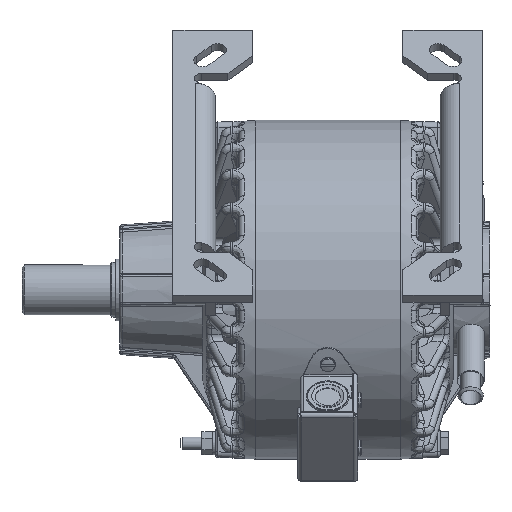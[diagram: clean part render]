
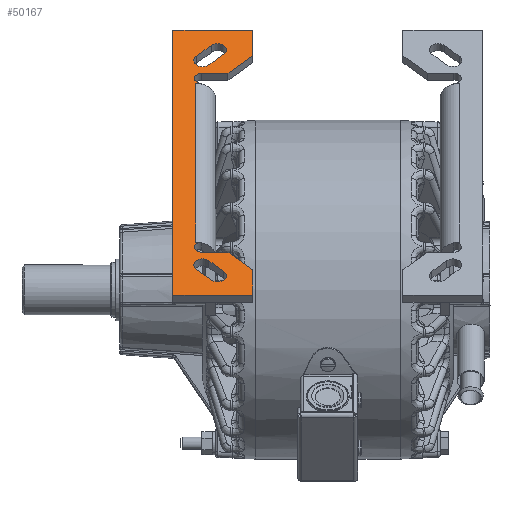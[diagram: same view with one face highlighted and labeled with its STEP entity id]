
A CAD part, left-side view. The second image highlights one B-rep face of the part: STEP entity #50167.
In plain terms, the highlighted planar face has unit normal (-0.707, 0, 0.707).
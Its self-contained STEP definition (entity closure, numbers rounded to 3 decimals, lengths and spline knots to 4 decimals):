
#1773=FACE_BOUND('',#6986,.T.);
#1774=FACE_BOUND('',#6987,.T.);
#2080=PLANE('',#53976);
#3721=FACE_OUTER_BOUND('',#6985,.T.);
#6985=EDGE_LOOP('',(#36958,#36959,#36960,#36961,#36962,#36963,#36964,#36965,
#36966,#36967,#36968,#36969,#36970,#36971));
#6986=EDGE_LOOP('',(#36972,#36973,#36974,#36975));
#6987=EDGE_LOOP('',(#36976,#36977,#36978,#36979));
#12702=CIRCLE('',#53932,0.219);
#12704=CIRCLE('',#53937,0.219);
#12711=CIRCLE('',#53960,0.18);
#12713=CIRCLE('',#53972,0.18);
#12715=CIRCLE('',#53977,0.219);
#12716=CIRCLE('',#53978,0.219);
#15661=LINE('',#102905,#17794);
#15666=LINE('',#102918,#17799);
#15669=LINE('',#102926,#17802);
#15674=LINE('',#102939,#17807);
#15711=LINE('',#103018,#17844);
#15719=LINE('',#103044,#17852);
#15722=LINE('',#103050,#17855);
#15725=LINE('',#103056,#17858);
#15728=LINE('',#103062,#17861);
#15731=LINE('',#103068,#17864);
#15734=LINE('',#103074,#17867);
#15737=LINE('',#103080,#17870);
#15740=LINE('',#103086,#17873);
#15743=LINE('',#103092,#17876);
#15747=LINE('',#103102,#17880);
#15748=LINE('',#103104,#17881);
#17794=VECTOR('',#61537,39.3701);
#17799=VECTOR('',#61550,39.3701);
#17802=VECTOR('',#61555,39.3701);
#17807=VECTOR('',#61568,39.3701);
#17844=VECTOR('',#61633,39.3701);
#17852=VECTOR('',#61661,39.3701);
#17855=VECTOR('',#61666,39.3701);
#17858=VECTOR('',#61671,39.3701);
#17861=VECTOR('',#61676,39.3701);
#17864=VECTOR('',#61681,39.3701);
#17867=VECTOR('',#61686,39.3701);
#17870=VECTOR('',#61691,39.3701);
#17873=VECTOR('',#61696,39.3701);
#17876=VECTOR('',#61701,39.3701);
#17880=VECTOR('',#61713,39.3701);
#17881=VECTOR('',#61716,39.3701);
#20806=VERTEX_POINT('',#102902);
#20807=VERTEX_POINT('',#102904);
#20809=VERTEX_POINT('',#102910);
#20811=VERTEX_POINT('',#102916);
#20814=VERTEX_POINT('',#102923);
#20815=VERTEX_POINT('',#102925);
#20817=VERTEX_POINT('',#102931);
#20819=VERTEX_POINT('',#102937);
#20846=VERTEX_POINT('',#103016);
#20847=VERTEX_POINT('',#103017);
#20852=VERTEX_POINT('',#103035);
#20853=VERTEX_POINT('',#103036);
#20855=VERTEX_POINT('',#103043);
#20857=VERTEX_POINT('',#103049);
#20859=VERTEX_POINT('',#103055);
#20861=VERTEX_POINT('',#103061);
#20863=VERTEX_POINT('',#103067);
#20865=VERTEX_POINT('',#103073);
#20867=VERTEX_POINT('',#103079);
#20869=VERTEX_POINT('',#103085);
#20871=VERTEX_POINT('',#103091);
#20873=VERTEX_POINT('',#103097);
#26587=EDGE_CURVE('',#20806,#20807,#15661,.T.);
#26591=EDGE_CURVE('',#20809,#20806,#12702,.T.);
#26594=EDGE_CURVE('',#20811,#20809,#15666,.T.);
#26597=EDGE_CURVE('',#20815,#20814,#15669,.T.);
#26601=EDGE_CURVE('',#20814,#20817,#12704,.T.);
#26604=EDGE_CURVE('',#20817,#20819,#15674,.T.);
#26643=EDGE_CURVE('',#20846,#20847,#15711,.T.);
#26653=EDGE_CURVE('',#20852,#20853,#12711,.T.);
#26657=EDGE_CURVE('',#20855,#20852,#15719,.T.);
#26660=EDGE_CURVE('',#20857,#20855,#15722,.T.);
#26663=EDGE_CURVE('',#20859,#20857,#15725,.T.);
#26666=EDGE_CURVE('',#20861,#20859,#15728,.T.);
#26669=EDGE_CURVE('',#20863,#20861,#15731,.T.);
#26672=EDGE_CURVE('',#20865,#20863,#15734,.T.);
#26675=EDGE_CURVE('',#20867,#20865,#15737,.T.);
#26678=EDGE_CURVE('',#20869,#20867,#15740,.T.);
#26681=EDGE_CURVE('',#20871,#20869,#15743,.T.);
#26684=EDGE_CURVE('',#20873,#20871,#12713,.T.);
#26687=EDGE_CURVE('',#20853,#20847,#15747,.T.);
#26688=EDGE_CURVE('',#20846,#20873,#15748,.T.);
#26689=EDGE_CURVE('',#20819,#20815,#12715,.T.);
#26690=EDGE_CURVE('',#20807,#20811,#12716,.T.);
#36958=ORIENTED_EDGE('',*,*,#26688,.F.);
#36959=ORIENTED_EDGE('',*,*,#26643,.T.);
#36960=ORIENTED_EDGE('',*,*,#26687,.F.);
#36961=ORIENTED_EDGE('',*,*,#26653,.F.);
#36962=ORIENTED_EDGE('',*,*,#26657,.F.);
#36963=ORIENTED_EDGE('',*,*,#26660,.F.);
#36964=ORIENTED_EDGE('',*,*,#26663,.F.);
#36965=ORIENTED_EDGE('',*,*,#26666,.F.);
#36966=ORIENTED_EDGE('',*,*,#26669,.F.);
#36967=ORIENTED_EDGE('',*,*,#26672,.F.);
#36968=ORIENTED_EDGE('',*,*,#26675,.F.);
#36969=ORIENTED_EDGE('',*,*,#26678,.F.);
#36970=ORIENTED_EDGE('',*,*,#26681,.F.);
#36971=ORIENTED_EDGE('',*,*,#26684,.F.);
#36972=ORIENTED_EDGE('',*,*,#26604,.T.);
#36973=ORIENTED_EDGE('',*,*,#26689,.T.);
#36974=ORIENTED_EDGE('',*,*,#26597,.T.);
#36975=ORIENTED_EDGE('',*,*,#26601,.T.);
#36976=ORIENTED_EDGE('',*,*,#26690,.F.);
#36977=ORIENTED_EDGE('',*,*,#26587,.F.);
#36978=ORIENTED_EDGE('',*,*,#26591,.F.);
#36979=ORIENTED_EDGE('',*,*,#26594,.F.);
#50167=ADVANCED_FACE('',(#3721,#1773,#1774),#2080,.F.);
#53932=AXIS2_PLACEMENT_3D('',#102912,#61544,#61545);
#53937=AXIS2_PLACEMENT_3D('',#102933,#61562,#61563);
#53960=AXIS2_PLACEMENT_3D('',#103037,#61653,#61654);
#53972=AXIS2_PLACEMENT_3D('',#103098,#61706,#61707);
#53976=AXIS2_PLACEMENT_3D('',#103105,#61717,#61718);
#53977=AXIS2_PLACEMENT_3D('',#103106,#61719,#61720);
#53978=AXIS2_PLACEMENT_3D('',#103107,#61721,#61722);
#61537=DIRECTION('',(0.5,0.707,0.5));
#61544=DIRECTION('center_axis',(-0.707,0.,
0.707));
#61545=DIRECTION('ref_axis',(0.,1.,0.));
#61550=DIRECTION('',(-0.5,-0.707,-0.5));
#61555=DIRECTION('',(0.5,-0.707,0.5));
#61562=DIRECTION('center_axis',(0.707,0.,
-0.707));
#61563=DIRECTION('ref_axis',(0.,1.,0.));
#61568=DIRECTION('',(-0.5,0.707,-0.5));
#61633=DIRECTION('',(0.707,0.,0.707));
#61653=DIRECTION('center_axis',(-0.707,0.,
0.707));
#61654=DIRECTION('ref_axis',(0.,1.,0.));
#61661=DIRECTION('',(0.,1.,0.));
#61666=DIRECTION('',(-0.5,0.707,-0.5));
#61671=DIRECTION('',(-0.707,0.,-0.707));
#61676=DIRECTION('',(0.,-1.,0.));
#61681=DIRECTION('',(0.707,0.,0.707));
#61686=DIRECTION('',(0.,1.,0.));
#61691=DIRECTION('',(-0.707,0.,-0.707));
#61696=DIRECTION('',(-0.5,-0.707,-0.5));
#61701=DIRECTION('',(0.,-1.,0.));
#61706=DIRECTION('center_axis',(-0.707,0.,
0.707));
#61707=DIRECTION('ref_axis',(0.,1.,0.));
#61713=DIRECTION('',(0.,1.,0.));
#61716=DIRECTION('',(0.,-1.,0.));
#61717=DIRECTION('center_axis',(0.707,0.,
-0.707));
#61718=DIRECTION('ref_axis',(0.,1.,0.));
#61719=DIRECTION('center_axis',(0.707,0.,
-0.707));
#61720=DIRECTION('ref_axis',(0.,1.,0.));
#61721=DIRECTION('center_axis',(-0.707,0.,
0.707));
#61722=DIRECTION('ref_axis',(0.,1.,0.));
#102902=CARTESIAN_POINT('',(-5.8974,4.4181,0.4634));
#102904=CARTESIAN_POINT('',(-5.6322,4.7931,0.7286));
#102905=CARTESIAN_POINT('',(-5.6322,4.7931,0.7286));
#102910=CARTESIAN_POINT('',(-6.1164,4.7279,0.2444));
#102912=CARTESIAN_POINT('Origin',(-6.0069,4.573,0.3539));
#102916=CARTESIAN_POINT('',(-5.8512,5.1029,0.5096));
#102918=CARTESIAN_POINT('',(-5.8512,5.1029,0.5096));
#102923=CARTESIAN_POINT('',(-0.2405,4.7279,6.1203));
#102925=CARTESIAN_POINT('',(-0.5057,5.1029,5.8551));
#102926=CARTESIAN_POINT('',(-0.5057,5.1029,5.8551));
#102931=CARTESIAN_POINT('',(-0.4595,4.4181,5.9013));
#102933=CARTESIAN_POINT('Origin',(-0.35,4.573,6.0108));
#102937=CARTESIAN_POINT('',(-0.7247,4.7931,5.6361));
#102939=CARTESIAN_POINT('',(-0.7247,4.7931,5.6361));
#103016=CARTESIAN_POINT('',(-5.1654,5.123,1.1954));
#103017=CARTESIAN_POINT('',(-1.1915,5.123,5.1693));
#103018=CARTESIAN_POINT('',(-5.1654,5.123,1.1954));
#103035=CARTESIAN_POINT('',(-0.9369,4.973,5.4239));
#103036=CARTESIAN_POINT('',(-1.1915,4.973,5.1693));
#103037=CARTESIAN_POINT('Origin',(-1.0642,4.973,5.2966));
#103043=CARTESIAN_POINT('',(-0.9369,4.313,5.4239));
#103044=CARTESIAN_POINT('',(-0.9369,4.973,5.4239));
#103049=CARTESIAN_POINT('',(-0.4985,3.693,5.8623));
#103050=CARTESIAN_POINT('',(-0.9369,4.313,5.4239));
#103055=CARTESIAN_POINT('',(0.1379,3.693,6.4987));
#103056=CARTESIAN_POINT('',(-0.4985,3.693,5.8623));
#103061=CARTESIAN_POINT('',(0.1379,5.693,6.4987));
#103062=CARTESIAN_POINT('',(0.1379,3.693,6.4987));
#103067=CARTESIAN_POINT('',(-6.4948,5.693,-0.134));
#103068=CARTESIAN_POINT('',(0.1379,5.693,6.4987));
#103073=CARTESIAN_POINT('',(-6.4948,3.693,-0.134));
#103074=CARTESIAN_POINT('',(-6.4948,5.693,-0.134));
#103079=CARTESIAN_POINT('',(-5.8584,3.693,0.5024));
#103080=CARTESIAN_POINT('',(-6.4948,3.693,-0.134));
#103085=CARTESIAN_POINT('',(-5.42,4.313,0.9408));
#103086=CARTESIAN_POINT('',(-5.8584,3.693,0.5024));
#103091=CARTESIAN_POINT('',(-5.42,4.973,0.9408));
#103092=CARTESIAN_POINT('',(-5.42,4.313,0.9408));
#103097=CARTESIAN_POINT('',(-5.1654,4.973,1.1954));
#103098=CARTESIAN_POINT('Origin',(-5.2927,4.973,1.0681));
#103102=CARTESIAN_POINT('',(-1.1915,4.973,5.1693));
#103104=CARTESIAN_POINT('',(-5.1654,4.973,1.1954));
#103105=CARTESIAN_POINT('Origin',(-1.0642,4.973,5.2966));
#103106=CARTESIAN_POINT('Origin',(-0.6152,4.948,5.7456));
#103107=CARTESIAN_POINT('Origin',(-5.7417,4.948,0.6191));
